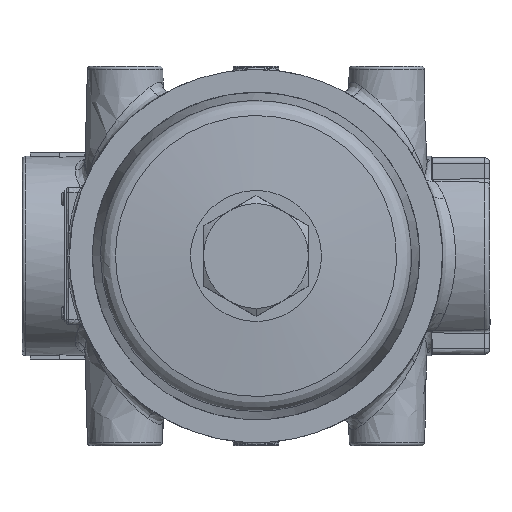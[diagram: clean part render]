
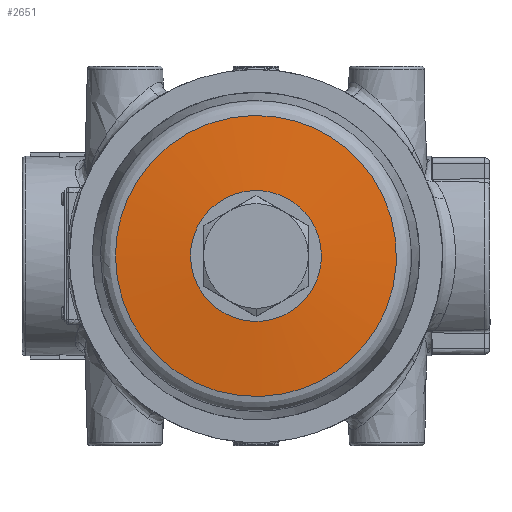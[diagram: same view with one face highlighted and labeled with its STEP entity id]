
A CAD part, front view. The second image highlights one B-rep face of the part: STEP entity #2651.
In plain terms, the highlighted free-form (B-spline) face has degree [2, 1] with [7, 2] control points.
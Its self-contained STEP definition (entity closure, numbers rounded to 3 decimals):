
#2571=CARTESIAN_POINT('V63',(2.048,-218.252,
   0.));
#2572=VERTEX_POINT('V63',#2571);
#2573=CARTESIAN_POINT('E88',(2.048,-218.252,
   0.));
#2574=CARTESIAN_POINT('E88',(2.048,-218.252,
   -34.641));
#2575=CARTESIAN_POINT('E88',(32.048,-218.252,
   -17.321));
#2576=CARTESIAN_POINT('E88',(62.048,-218.252,
   0.));
#2577=CARTESIAN_POINT('E88',(32.048,-218.252,
   17.321));
#2578=CARTESIAN_POINT('E88',(2.048,-218.252,
   34.641));
#2579=CARTESIAN_POINT('E88',(2.048,-218.252,
   0.));
#2587=(BOUNDED_CURVE()B_SPLINE_CURVE(2,(#2573,#2574,#2575,#2576,
   #2577,#2578,#2579),.CIRCULAR_ARC.,.T.,.U.)
   B_SPLINE_CURVE_WITH_KNOTS((3,2,2,3),(0.0,0.333,
   0.667,1.0),.UNSPECIFIED.)CURVE()
   GEOMETRIC_REPRESENTATION_ITEM()RATIONAL_B_SPLINE_CURVE((1.0,
   0.5,1.0,0.5,1.0,0.5,1.0)
   )REPRESENTATION_ITEM('E88'));
#2588=EDGE_CURVE('E88',#2572,#2572,#2587,.T.);
#2601=CARTESIAN_POINT('F39',(2.048,-218.252,
   0.));
#2602=CARTESIAN_POINT('F39',(2.048,-218.252,
   34.641));
#2603=CARTESIAN_POINT('F39',(32.048,-218.252,
   17.321));
#2604=CARTESIAN_POINT('F39',(62.048,-218.252,
   0.));
#2605=CARTESIAN_POINT('F39',(32.048,-218.252,
   -17.321));
#2606=CARTESIAN_POINT('F39',(2.048,-218.252,
   -34.641));
#2607=CARTESIAN_POINT('F39',(2.048,-218.252,
   0.));
#2608=CARTESIAN_POINT('F39',(-20.887,
   -216.246,0.));
#2609=CARTESIAN_POINT('F39',(-20.887,
   -216.246,74.367));
#2610=CARTESIAN_POINT('F39',(43.516,-216.246,
   37.183));
#2611=CARTESIAN_POINT('F39',(107.92,
   -216.246,0.));
#2612=CARTESIAN_POINT('F39',(43.516,-216.246,
   -37.183));
#2613=CARTESIAN_POINT('F39',(-20.887,
   -216.246,-74.367));
#2614=CARTESIAN_POINT('F39',(-20.887,
   -216.246,0.));
#2622=(BOUNDED_SURFACE()B_SPLINE_SURFACE(2,1,((#2601,#2608),(
   #2602,#2609),(#2603,#2610),(#2604,#2611),(#2605,#2612),(
   #2606,#2613),(#2607,#2614)),.CONICAL_SURF.,.T.,.F.,.U.)
   B_SPLINE_SURFACE_WITH_KNOTS((3,2,2,3),(2,2),(0.0,
   4.735,9.469,14.204),(0.0,1.0),
   .UNSPECIFIED.)GEOMETRIC_REPRESENTATION_ITEM()
   RATIONAL_B_SPLINE_SURFACE(((1.0,1.0),(0.5,
   0.5),(1.0,1.0),(0.5,
   0.5),(1.0,1.0),(0.5,
   0.5),(1.0,1.0)))REPRESENTATION_ITEM('F39')SURFACE(
   ));
#2623=CARTESIAN_POINT('V70',(-20.887,
   -216.246,0.));
#2624=VERTEX_POINT('V70',#2623);
#2625=CARTESIAN_POINT('E95',(-20.887,
   -216.246,0.0));
#2626=CARTESIAN_POINT('E95',(2.048,-218.252,
   0.0));
#2627=QUASI_UNIFORM_CURVE('E95',1,(#2625,#2626),.POLYLINE_FORM.,.F.,
   .U.);
#2628=EDGE_CURVE('E95',#2624,#2572,#2627,.T.);
#2629=ORIENTED_EDGE('E95',*,*,#2628,.T.);
#2630=ORIENTED_EDGE('F38',*,*,#2588,.F.);
#2631=ORIENTED_EDGE('E95',*,*,#2628,.F.);
#2632=CARTESIAN_POINT('E96',(-20.887,
   -216.246,0.));
#2633=CARTESIAN_POINT('E96',(-20.887,
   -216.246,-74.367));
#2634=CARTESIAN_POINT('E96',(43.516,-216.246,
   -37.183));
#2635=CARTESIAN_POINT('E96',(107.92,
   -216.246,0.));
#2636=CARTESIAN_POINT('E96',(43.516,-216.246,
   37.183));
#2637=CARTESIAN_POINT('E96',(-20.887,
   -216.246,74.367));
#2638=CARTESIAN_POINT('E96',(-20.887,
   -216.246,0.));
#2646=(BOUNDED_CURVE()B_SPLINE_CURVE(2,(#2632,#2633,#2634,#2635,
   #2636,#2637,#2638),.CIRCULAR_ARC.,.T.,.U.)
   B_SPLINE_CURVE_WITH_KNOTS((3,2,2,3),(0.0,4.735,
   9.469,14.204),.UNSPECIFIED.)CURVE()
   GEOMETRIC_REPRESENTATION_ITEM()RATIONAL_B_SPLINE_CURVE((1.0,
   0.5,1.0,0.5,1.0,0.5,1.0)
   )REPRESENTATION_ITEM('E96'));
#2647=EDGE_CURVE('E96',#2624,#2624,#2646,.T.);
#2648=ORIENTED_EDGE('E96',*,*,#2647,.T.);
#2649=EDGE_LOOP('F39',(#2629,#2630,#2631,#2648));
#2650=FACE_OUTER_BOUND('F39',#2649,.T.);
#2651=ADVANCED_FACE('F39',(#2650),#2622,.T.);
